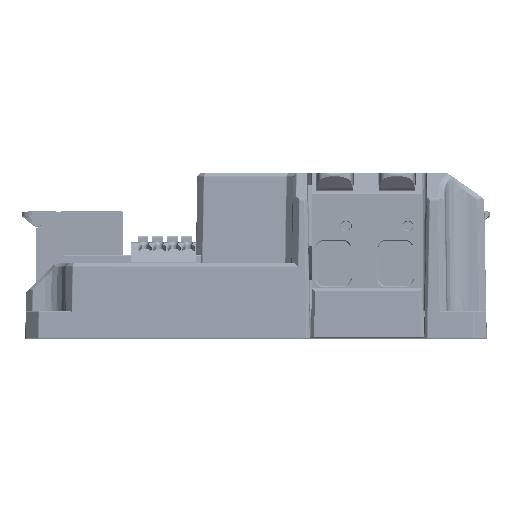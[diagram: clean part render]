
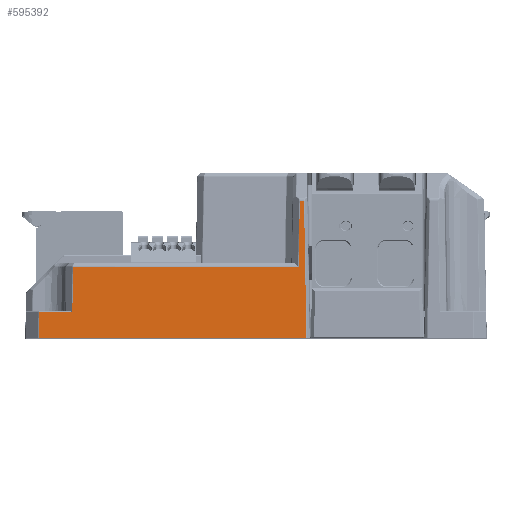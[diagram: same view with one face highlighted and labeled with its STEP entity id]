
A CAD part, top view. The second image highlights one B-rep face of the part: STEP entity #595392.
In plain terms, the highlighted planar face has unit normal (0, 0.018, 1).
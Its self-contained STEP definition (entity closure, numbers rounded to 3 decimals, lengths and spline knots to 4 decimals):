
#5253 = CARTESIAN_POINT ( 'NONE',  ( -2.0582, 0.0263, 4.437 ) ) ;
#19459 = VECTOR ( 'NONE', #820844, 39.3701 ) ;
#21711 = VECTOR ( 'NONE', #555882, 39.3701 ) ;
#38610 = ORIENTED_EDGE ( 'NONE', *, *, #531187, .T. ) ;
#38688 = VECTOR ( 'NONE', #564534, 39.3701 ) ;
#42849 = ORIENTED_EDGE ( 'NONE', *, *, #784473, .T. ) ;
#63596 = DIRECTION ( 'NONE',  ( -0.007, -1., 0.017 ) ) ;
#80271 = DIRECTION ( 'NONE',  ( 0., 0.017, 1. ) ) ;
#88406 = AXIS2_PLACEMENT_3D ( 'NONE', #712300, #80271, #716386 ) ;
#103509 = CARTESIAN_POINT ( 'NONE',  ( -1.7417, 0.2403, 4.4333 ) ) ;
#104897 = VECTOR ( 'NONE', #107534, 39.3701 ) ;
#107534 = DIRECTION ( 'NONE',  ( -1., 0., 0. ) ) ;
#119371 = EDGE_CURVE ( 'NONE', #686026, #819156, #202410, .T. ) ;
#169980 = ORIENTED_EDGE ( 'NONE', *, *, #176094, .T. ) ;
#171271 = ORIENTED_EDGE ( 'NONE', *, *, #435271, .T. ) ;
#176094 = EDGE_CURVE ( 'NONE', #638785, #321682, #293015, .T. ) ;
#196849 = PLANE ( 'NONE',  #88406 ) ;
#202410 = LINE ( 'NONE', #206529, #781793 ) ;
#206529 = CARTESIAN_POINT ( 'NONE',  ( 1.5747, 0., 4.4375 ) ) ;
#213749 = VECTOR ( 'NONE', #410714, 39.3701 ) ;
#215955 = EDGE_CURVE ( 'NONE', #553069, #638785, #614723, .T. ) ;
#216700 = VECTOR ( 'NONE', #63596, 39.3701 ) ;
#219477 = CARTESIAN_POINT ( 'NONE',  ( 0.4555, 1.2966, 4.4149 ) ) ;
#245848 = VERTEX_POINT ( 'NONE', #694683 ) ;
#246541 = ORIENTED_EDGE ( 'NONE', *, *, #387927, .T. ) ;
#247647 = ORIENTED_EDGE ( 'NONE', *, *, #119371, .T. ) ;
#251617 = EDGE_LOOP ( 'NONE', ( #42849, #673932, #171271, #247647, #594683, #38610, #246541, #550032, #169980 ) ) ;
#288255 = EDGE_CURVE ( 'NONE', #320550, #245848, #789226, .T. ) ;
#288943 = VERTEX_POINT ( 'NONE', #388380 ) ;
#293015 = LINE ( 'NONE', #737928, #19459 ) ;
#314531 = CARTESIAN_POINT ( 'NONE',  ( -1.7416, 0.2499, 4.4331 ) ) ;
#320550 = VERTEX_POINT ( 'NONE', #103509 ) ;
#321682 = VERTEX_POINT ( 'NONE', #387841 ) ;
#323116 = DIRECTION ( 'NONE',  ( 1., 0., 0. ) ) ;
#336156 = DIRECTION ( 'NONE',  ( -1., 0., 0. ) ) ;
#364673 = CARTESIAN_POINT ( 'NONE',  ( 0.4781, 0., 4.4375 ) ) ;
#385500 = LINE ( 'NONE', #634991, #38688 ) ;
#387841 = CARTESIAN_POINT ( 'NONE',  ( -1.7342, 0.6725, 4.4258 ) ) ;
#387927 = EDGE_CURVE ( 'NONE', #480271, #553069, #385500, .T. ) ;
#388380 = CARTESIAN_POINT ( 'NONE',  ( 0.4555, 1.2967, 4.4149 ) ) ;
#410714 = DIRECTION ( 'NONE',  ( -0.017, 1., -0.017 ) ) ;
#435271 = EDGE_CURVE ( 'NONE', #245848, #686026, #504335, .T. ) ;
#462717 = FACE_OUTER_BOUND ( 'NONE', #251617, .T. ) ;
#480271 = VERTEX_POINT ( 'NONE', #512737 ) ;
#502568 = CARTESIAN_POINT ( 'NONE',  ( 0.4046, 0.6726, 4.4258 ) ) ;
#504335 = LINE ( 'NONE', #5253, #216700 ) ;
#512737 = CARTESIAN_POINT ( 'NONE',  ( 0.4155, 1.2967, 4.4149 ) ) ;
#521673 = VECTOR ( 'NONE', #691060, 39.3701 ) ;
#531187 = EDGE_CURVE ( 'NONE', #288943, #480271, #745230, .T. ) ;
#535480 = LINE ( 'NONE', #219477, #213749 ) ;
#539648 = CARTESIAN_POINT ( 'NONE',  ( -2.0566, 0.2403, 4.4333 ) ) ;
#550032 = ORIENTED_EDGE ( 'NONE', *, *, #215955, .T. ) ;
#553069 = VERTEX_POINT ( 'NONE', #502568 ) ;
#555882 = DIRECTION ( 'NONE',  ( -0.017, -1., 0.017 ) ) ;
#562250 = CARTESIAN_POINT ( 'NONE',  ( 1.5747, 1.2967, 4.4149 ) ) ;
#564534 = DIRECTION ( 'NONE',  ( -0.017, -1., 0.017 ) ) ;
#568344 = CARTESIAN_POINT ( 'NONE',  ( -2.0584, 0., 4.4375 ) ) ;
#570795 = EDGE_CURVE ( 'NONE', #819156, #288943, #535480, .T. ) ;
#594683 = ORIENTED_EDGE ( 'NONE', *, *, #570795, .T. ) ;
#595392 = ADVANCED_FACE ( 'NONE', ( #462717 ), #196849, .T. ) ;
#614723 = LINE ( 'NONE', #727210, #104897 ) ;
#630445 = LINE ( 'NONE', #314531, #21711 ) ;
#634991 = CARTESIAN_POINT ( 'NONE',  ( 0.4047, 0.6766, 4.4257 ) ) ;
#638785 = VERTEX_POINT ( 'NONE', #781726 ) ;
#645246 = VECTOR ( 'NONE', #336156, 39.3701 ) ;
#673932 = ORIENTED_EDGE ( 'NONE', *, *, #288255, .T. ) ;
#686026 = VERTEX_POINT ( 'NONE', #568344 ) ;
#691060 = DIRECTION ( 'NONE',  ( -1., 0., 0. ) ) ;
#694683 = CARTESIAN_POINT ( 'NONE',  ( -2.0567, 0.2403, 4.4333 ) ) ;
#712300 = CARTESIAN_POINT ( 'NONE',  ( 1.5747, 0., 4.4375 ) ) ;
#716386 = DIRECTION ( 'NONE',  ( 0., -1., 0.017 ) ) ;
#727210 = CARTESIAN_POINT ( 'NONE',  ( -1.7341, 0.6726, 4.4258 ) ) ;
#737928 = CARTESIAN_POINT ( 'NONE',  ( -1.7363, 0.6711, 4.4258 ) ) ;
#745230 = LINE ( 'NONE', #562250, #521673 ) ;
#781726 = CARTESIAN_POINT ( 'NONE',  ( -1.7341, 0.6726, 4.4258 ) ) ;
#781793 = VECTOR ( 'NONE', #323116, 39.3701 ) ;
#784473 = EDGE_CURVE ( 'NONE', #321682, #320550, #630445, .T. ) ;
#789226 = LINE ( 'NONE', #539648, #645246 ) ;
#819156 = VERTEX_POINT ( 'NONE', #364673 ) ;
#820844 = DIRECTION ( 'NONE',  ( -0.826, -0.563, 0.01 ) ) ;
